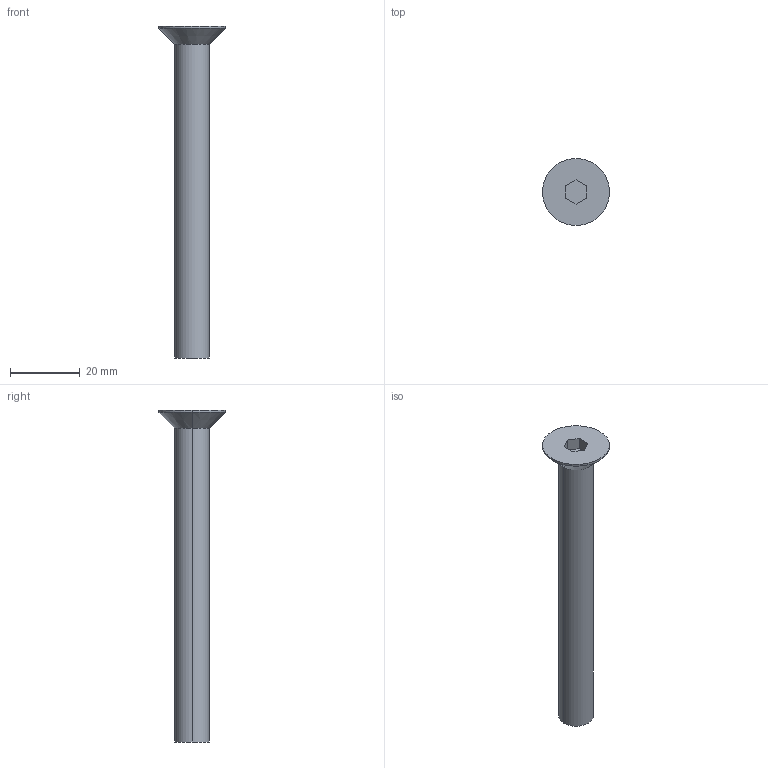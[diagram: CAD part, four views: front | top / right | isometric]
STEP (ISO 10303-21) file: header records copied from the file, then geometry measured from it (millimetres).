
FILE_DESCRIPTION (( 'STEP AP214' ), '1' );
FILE_NAME ('COUNTERSHUNK_HEAD_BOLT_M10(L=090).STEP', '2021-09-18T10:24:26', ( '' ), ( '' ), 'SwSTEP 2.0', 'SolidWorks 2018', '' );
FILE_SCHEMA (( 'AUTOMOTIVE_DESIGN' ));
Length unit declared in the file: millimetre
Products named in the file (1): COUNTERSHUNK_HEAD_BOLT_M10(L=090)
Bounding box: 19.22 x 19.22 x 95.22 mm (x, y, z)
Volume: 7931.8 mm3; surface area: 3607 mm2
Topology: 1 solids, 1 shells, 15 faces, 32 edges, 20 vertices
Faces by surface type: plane 9, cylinder 4, cone 2
Entity records: 436 total; most frequent: DIRECTION 72, CARTESIAN_POINT 68, ORIENTED_EDGE 64, EDGE_CURVE 32, LINE 24, VECTOR 24, AXIS2_PLACEMENT_3D 24, VERTEX_POINT 20
